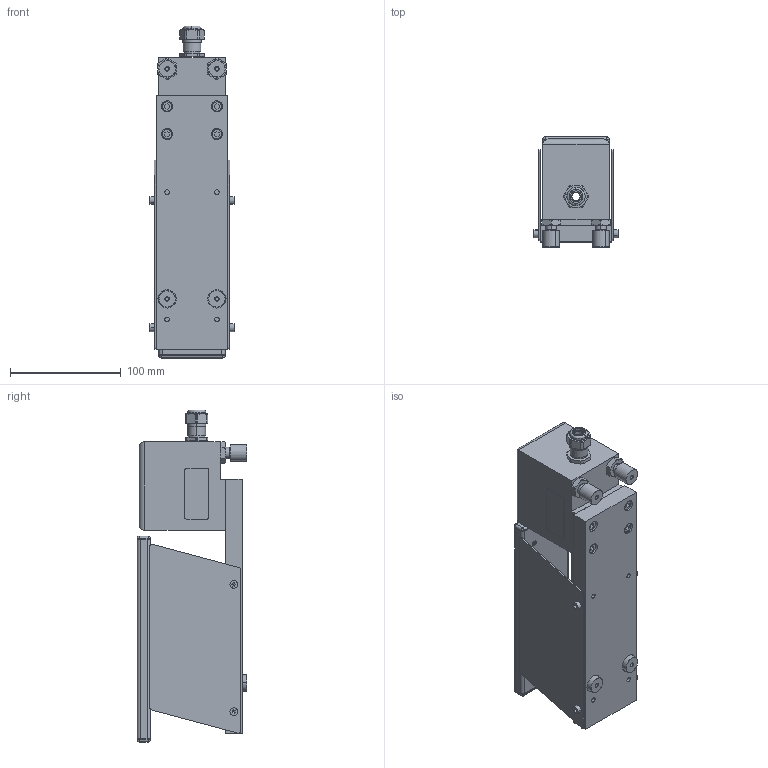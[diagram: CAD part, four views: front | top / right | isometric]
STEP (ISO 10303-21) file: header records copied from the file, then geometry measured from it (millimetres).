
FILE_DESCRIPTION (( 'STEP AP203' ), '1' );
FILE_NAME ('SAL 500.STEP', '2015-10-12T09:23:00', ( '' ), ( '' ), 'SwSTEP 2.0', 'SolidWorks 2014', '' );
FILE_SCHEMA (( 'CONFIG_CONTROL_DESIGN' ));
Length unit declared in the file: millimetre
Products named in the file (1): SAL 500
Bounding box: 76 x 99.35 x 300.1 mm (x, y, z)
Surface area: 174344 mm2 (no closed solid volume)
Topology: 0 solids, 86 shells, 501 faces, 1565 edges, 1130 vertices
Faces by surface type: cylinder 228, plane 191, cone 72, sphere 8, bspline 2
Entity records: 20049 total; most frequent: CARTESIAN_POINT 6251, DIRECTION 2971, ORIENTED_EDGE 2426, EDGE_CURVE 1549, VERTEX_POINT 1130, AXIS2_PLACEMENT_3D 1116, LINE 739, VECTOR 739
